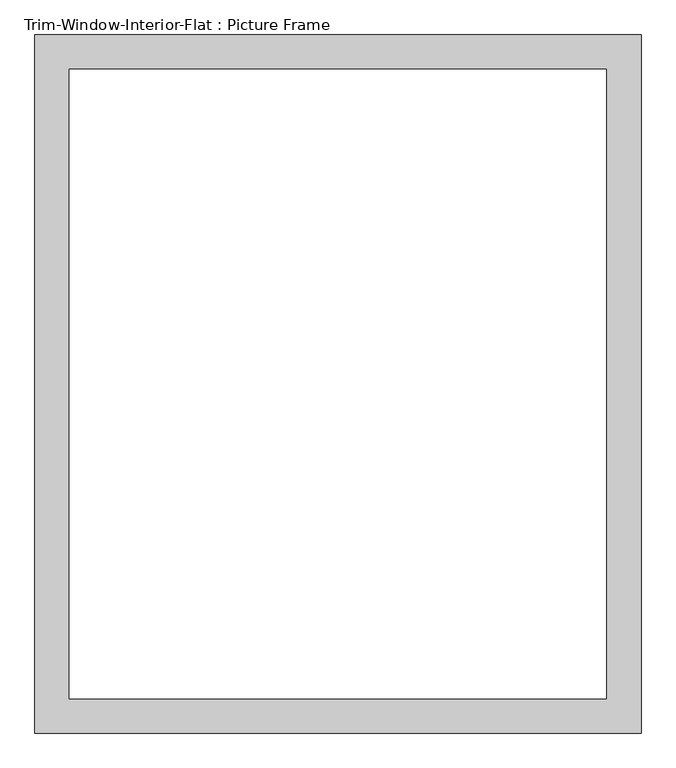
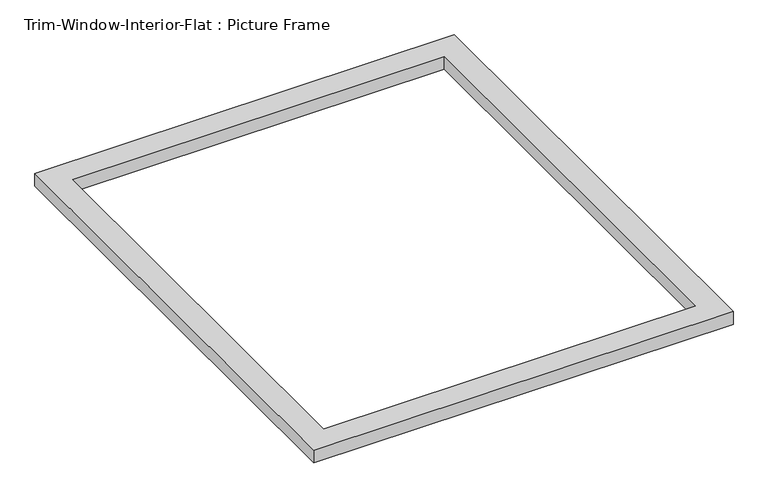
"""IFC4 building model written with IfcOpenShell, lengths in millimetres: proxy geometry, Trim-Window-Interior-Flat : Picture Frame."""

from ifc_helpers import new_model, si_unit, origin, origin_with_axes, place, context, project, spatial, polyline, outline, extrude, source, transform, mapped, element, save


def trim_window_interior_flat_picture_frame_dc353545(model_context):
    return source(origin(), model_context, "Body", "SweptSolid", [
        extrude(outline(polyline([(501.65, 44.45), (501.65, -1111.25), (-501.65, -1111.25), (-501.65, 44.45), (501.65, 44.45)]), holes=[polyline([(444.5, -12.7), (-444.5, -12.7), (-444.5, -1054.1), (444.5, -1054.1), (444.5, -12.7)])]), origin_with_axes(), (0.0, 0.0, 1.0), 31.75),
    ])


if __name__ == "__main__":
    model = new_model("IFC4")
    model_context = context("Model", 3, world=origin())
    ifc_project = project(units=[si_unit("LENGTHUNIT", "METRE", prefix="MILLI")], contexts=[model_context])
    site = spatial("IfcSite", under=ifc_project)
    building = spatial("IfcBuilding", under=site)
    placement = place(None, origin())
    trim_window_interior_flat_picture_frame_shape = trim_window_interior_flat_picture_frame_dc353545(model_context)
    element("IfcBuildingElementProxy", 1, Name="Trim-Window-Interior-Flat : Picture Frame", ObjectType="Trim-Window-Interior-Flat : Picture Frame", at=placement, inside=building, context=model_context, shape_type="MappedRepresentation", body=[
        mapped(trim_window_interior_flat_picture_frame_shape, transform((0.0, 0.0, 0.0), x_axis=(1.0, 0.0, 0.0), y_axis=(0.0, 1.0, 0.0), z_axis=(0.0, 0.0, 1.0))),
    ])
    save(model, "model.ifc")
